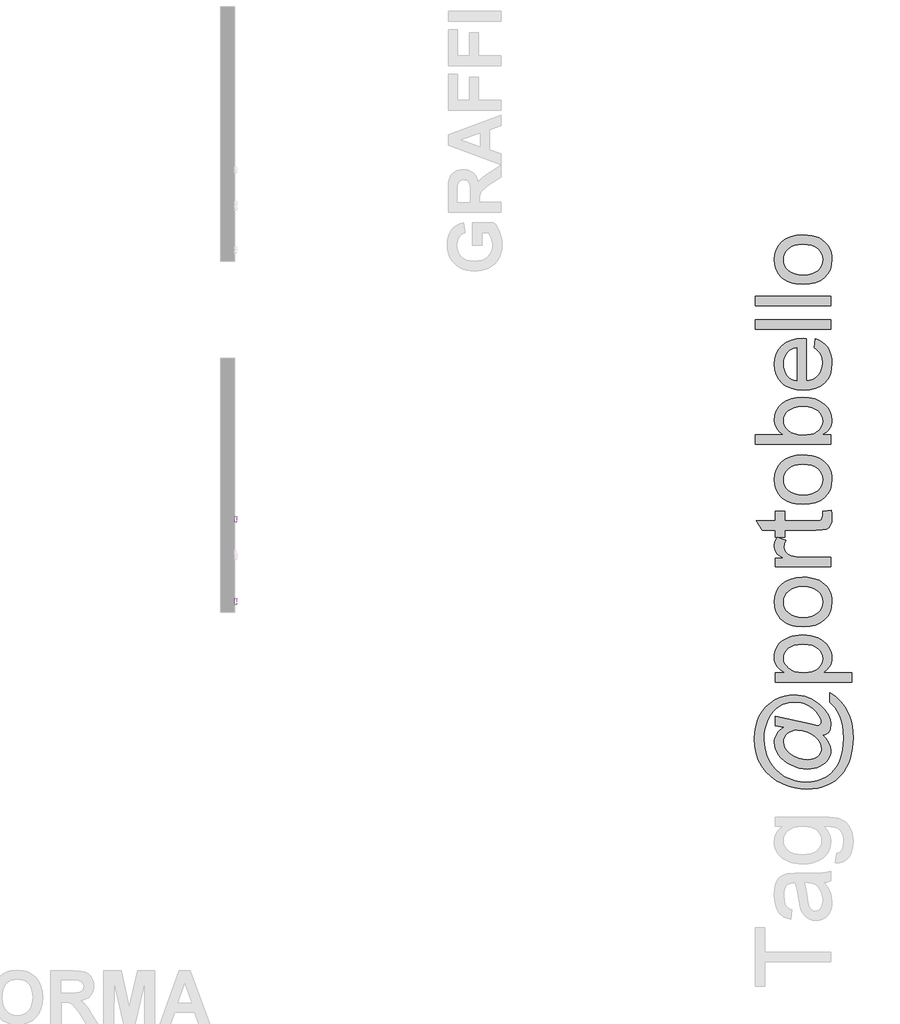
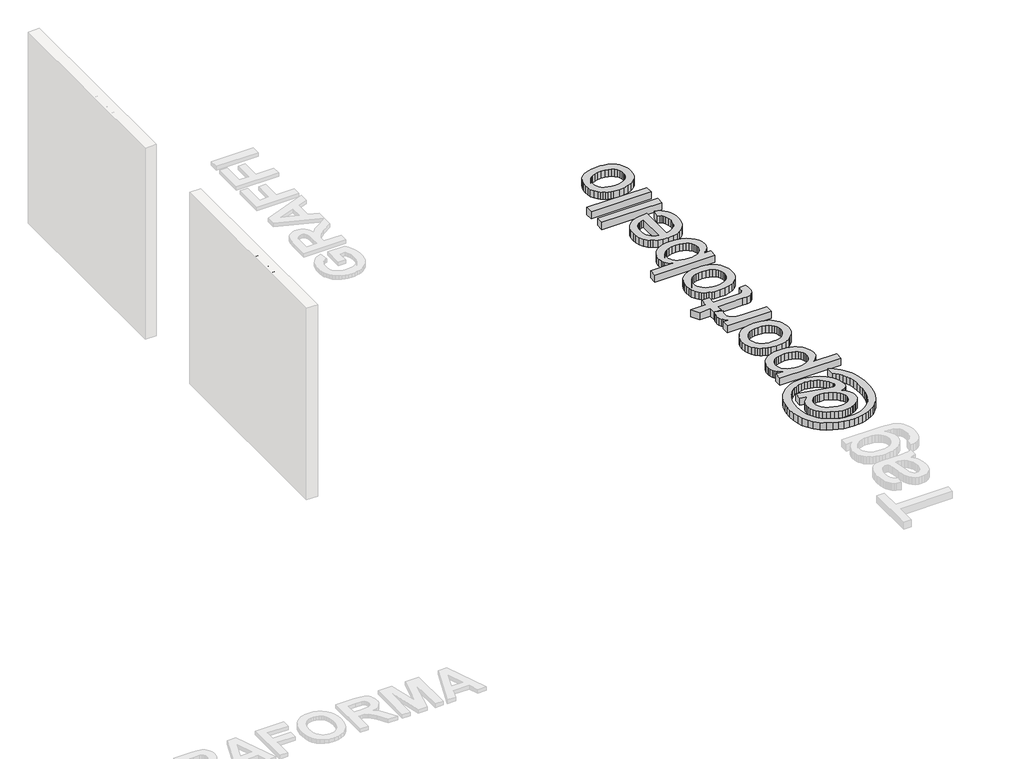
# One storey, part 5 of 17: 3 proxies.
"""IFC4 building model written with IfcOpenShell, lengths in millimetres."""

import ifcopenshell
import ifcopenshell.guid

model = None  # the IFC model being written
_history = None  # IfcOwnerHistory: only IFC2X3 demands one
_inside = {}  # id of a spatial element -> (the spatial element, [elements in it])
_under = {}  # id of a project, library or spatial element -> (it, [spatial elements below it])
_declared = {}  # id of a project -> (the project, [libraries it declares])
_typed = {}  # id of a type object -> (the type object, [elements of that type])
_made_of = {}  # id of a material, layer set ... -> (it, [elements and type objects made of it])


def new_model(schema):
    """Start an empty IFC model of exactly this schema.

    Asked for "IFC4X3", IfcOpenShell would pick the latest addendum, in which some entities
    have other attributes; the version numbers below select the first issue.
    IFC2X3 requires an IfcOwnerHistory on every rooted entity: one is made here for all.
    """
    global model, _history
    if schema == "IFC4X3":
        model = ifcopenshell.file(schema_version=(4, 3, 0, 0))
    else:
        model = ifcopenshell.file(schema=schema)
    _inside.clear()
    _under.clear()
    _declared.clear()
    _typed.clear()
    _made_of.clear()
    _history = None
    if model.schema == "IFC2X3":
        org = make("IfcOrganization", Name="unknown")
        user = make(
            "IfcPersonAndOrganization",
            ThePerson=make("IfcPerson", FamilyName="unknown"),
            TheOrganization=org,
        )
        app = make(
            "IfcApplication",
            ApplicationDeveloper=org,
            Version="unknown",
            ApplicationFullName="unknown",
            ApplicationIdentifier="unknown",
        )
        _history = make(
            "IfcOwnerHistory",
            OwningUser=user,
            OwningApplication=app,
            ChangeAction="ADDED",
            CreationDate=0,
        )
    return model


def make(cls, **values):
    """One entity of the class cls with the attributes given. An attribute that is None is left unset."""
    return model.create_entity(
        cls, **{name: value for name, value in values.items() if value is not None}
    )


def rooted(cls, **values):
    """An entity with a GlobalId (a new one), such as an element, a storey or a relation."""
    return make(cls, GlobalId=ifcopenshell.guid.new(), OwnerHistory=_history, **values)


def si_unit(unit_type, name, prefix=None):
    """IfcSIUnit, for example si_unit("LENGTHUNIT", "METRE", prefix="MILLI")."""
    return make("IfcSIUnit", UnitType=unit_type, Prefix=prefix, Name=name)


def assignment(units):
    """IfcUnitAssignment: the units of a project."""
    return None if units is None else make("IfcUnitAssignment", Units=units)


def point(xyz):
    """IfcCartesianPoint."""
    return None if xyz is None else make("IfcCartesianPoint", Coordinates=xyz)


def direction(xyz):
    """IfcDirection."""
    return None if xyz is None else make("IfcDirection", DirectionRatios=xyz)


def frame(location, z_axis=None, x_axis=None):
    """IfcAxis2Placement3D, a coordinate frame: its origin and axes. An axis left out is left unset."""
    return make(
        "IfcAxis2Placement3D",
        Location=point(location),
        Axis=direction(z_axis),
        RefDirection=direction(x_axis),
    )


def origin():
    """The frame at (0, 0, 0) with its axes left unset."""
    return frame((0.0, 0.0, 0.0))


def origin_with_axes():
    """The frame at (0, 0, 0) with the z axis (0, 0, 1) and the x axis (1, 0, 0) written out."""
    return frame((0.0, 0.0, 0.0), z_axis=(0.0, 0.0, 1.0), x_axis=(1.0, 0.0, 0.0))


def place(relative_to, where):
    """IfcLocalPlacement: puts the frame where relative to a parent placement (None: the world)."""
    return make(
        "IfcLocalPlacement", PlacementRelTo=relative_to, RelativePlacement=where
    )


def context(
    kind, dimensions, precision=None, world=None, true_north=None, identifier=None
):
    """IfcGeometricRepresentationContext, for example the 3D "Model" context."""
    return make(
        "IfcGeometricRepresentationContext",
        ContextIdentifier=identifier,
        ContextType=kind,
        CoordinateSpaceDimension=dimensions,
        Precision=precision,
        WorldCoordinateSystem=world,
        TrueNorth=true_north,
    )


def project(units=None, contexts=None):
    """IfcProject with its units and contexts."""
    return rooted(
        "IfcProject",
        Name="project",
        RepresentationContexts=contexts,
        UnitsInContext=assignment(units),
    )


def spatial(cls, under=None, at=None, **own):
    """A site, building, storey or space (cls), placed at a placement, below another one or the project."""
    s = rooted(cls, ObjectPlacement=at, **own)
    if under is not None:
        _under.setdefault(under.id(), (under, []))[1].append(s)
    return s


def polyline(points):
    """IfcPolyline through the points."""
    return make("IfcPolyline", Points=[point(p) for p in points])


def outline(outer, holes=None, kind="AREA"):
    """IfcArbitraryClosedProfileDef: a profile drawn as a closed curve; with holes, ...WithVoids."""
    if holes is None:
        return make("IfcArbitraryClosedProfileDef", ProfileType=kind, OuterCurve=outer)
    return make(
        "IfcArbitraryProfileDefWithVoids",
        ProfileType=kind,
        OuterCurve=outer,
        InnerCurves=holes,
    )


def extrude(swept, where, along, depth):
    """IfcExtrudedAreaSolid: the profile swept, set in the frame where, extruded along a direction by depth."""
    return make(
        "IfcExtrudedAreaSolid",
        SweptArea=swept,
        Position=where,
        ExtrudedDirection=direction(along),
        Depth=depth,
    )


def shape(context_of_items, identifier, shape_type, items):
    """IfcShapeRepresentation: the items that make up one representation, for example the "Body"."""
    return make(
        "IfcShapeRepresentation",
        ContextOfItems=context_of_items,
        RepresentationIdentifier=identifier,
        RepresentationType=shape_type,
        Items=items,
    )


def made_of(thing, what):
    """Note that an element or type object is made of a material, layer set ...; save() writes the relation."""
    if what is not None:
        _made_of.setdefault(what.id(), (what, []))[1].append(thing)
    return thing


def element(
    cls,
    number,
    at=None,
    inside=None,
    cuts=None,
    type_object=None,
    material=None,
    context=None,
    identifier="Body",
    shape_type=None,
    held_by="IfcProductDefinitionShape",
    body=None,
    shapes=None,
    **own,
):
    """One element of the class cls, such as IfcWall. Its Tag is "e" and its number.

    at: its placement. inside: the storey or other place that contains it. cuts: it is an
    opening in that element (IfcRelVoidsElement). A single representation is given by context,
    identifier, shape_type and body (its items); several are given by shapes. held_by: the class
    of the entity that holds the representations. save() writes the other relations.
    """
    e = rooted(cls, Tag="e%d" % number, ObjectPlacement=at, **own)
    if body is not None:
        shapes = [shape(context, identifier, shape_type, body)]
    if shapes is not None:
        e.Representation = make(held_by, Representations=shapes)
    if inside is not None:
        _inside.setdefault(inside.id(), (inside, []))[1].append(e)
    if cuts is not None:
        rooted(
            "IfcRelVoidsElement", RelatingBuildingElement=cuts, RelatedOpeningElement=e
        )
    if type_object is not None:
        _typed.setdefault(type_object.id(), (type_object, []))[1].append(e)
    return made_of(e, material)


def aggregate(whole, parts):
    """IfcRelAggregates: a whole, such as a stair, and the parts it consists of."""
    return rooted("IfcRelAggregates", RelatingObject=whole, RelatedObjects=parts)


def save(model, path):
    """Write the relations noted so far, then the file.

    IfcRelAggregates (storeys below a building ...), IfcRelContainedInSpatialStructure (elements
    in a storey), IfcRelDefinesByType, IfcRelAssociatesMaterial and IfcRelDeclares: one each for
    every whole, place, type object, material and project.
    """
    for whole, parts in _under.values():
        aggregate(whole, parts)
    for where, things in _inside.values():
        rooted(
            "IfcRelContainedInSpatialStructure",
            RelatedElements=things,
            RelatingStructure=where,
        )
    for kind, things in _typed.values():
        rooted("IfcRelDefinesByType", RelatedObjects=things, RelatingType=kind)
    for what, things in _made_of.values():
        rooted("IfcRelAssociatesMaterial", RelatedObjects=things, RelatingMaterial=what)
    for by, libraries in _declared.values():
        rooted("IfcRelDeclares", RelatingContext=by, RelatedDefinitions=libraries)
    model.write(path)


model = new_model("IFC4")

# Units and contexts
model_context = context("Model", 3, world=origin())
ifc_project = project(units=[si_unit("LENGTHUNIT", "METRE", prefix="MILLI")], contexts=[model_context])

# Site, building, storey
site = spatial("IfcSite", under=ifc_project)
building = spatial("IfcBuilding", under=site)
storey = spatial("IfcBuildingStorey", under=building, Name="PORTOBELLO - SHOWROOM", Elevation=0.0)

# Proxies
placement = place(None, origin())
element("IfcBuildingElementProxy", 1, Name="10mm Arial", ObjectType="10mm Arial", at=placement, inside=storey, context=model_context, shape_type="SweptSolid", body=[
    extrude(outline(polyline([(-7608.8255811, 2393.4745677), (-7608.8255811, 2417.0190154), (-7654.3448466, 2417.0190154), (-7654.3448466, 2429.5760541), (-7605.6863214, 2492.361248), (-7596.2685423, 2492.361248), (-7596.2685423, 2429.5760541), (-7583.7115035, 2429.5760541), (-7583.7115035, 2417.0190154), (-7596.2685423, 2417.0190154), (-7596.2685423, 2393.4745677), (-7608.8255811, 2393.4745677)]), holes=[polyline([(-7608.8255811, 2429.5760541), (-7608.8255811, 2468.3753419), (-7638.8938028, 2429.5760541), (-7608.8255811, 2429.5760541)])]), frame((-7622.2794626, 0.0, 0.0), z_axis=(1.0, 0.0, 0.0), x_axis=(0.0, 1.0, 0.0)), (0.0, 0.0, 1.0), 20.0),
    extrude(outline(polyline([(-7572.7240946, 2420.158275), (-7560.1670558, 2421.7279049), (-7553.8394855, 2408.7907214), (-7540.718361, 2404.4619766), (-7531.7175149, 2405.9672271), (-7524.9730116, 2410.4829786), (-7520.7607628, 2417.4880649), (-7519.3566798, 2426.4613199), (-7524.6173924, 2441.3728034), (-7531.2239399, 2445.4746877), (-7540.5221573, 2446.8419824), (-7551.5463544, 2444.6592159), (-7558.597426, 2438.9938332), (-7571.1544648, 2440.563463), (-7560.1670558, 2492.361248), (-7511.5085306, 2492.361248), (-7511.5085306, 2479.8042092), (-7550.0135128, 2479.8042092), (-7555.4091154, 2452.1394832), (-7546.438926, 2457.5841367), (-7537.0395411, 2459.3990212), (-7525.3041054, 2457.1488097), (-7515.5552325, 2450.3981751), (-7508.9885389, 2440.1097419), (-7506.7996411, 2427.2461348), (-7508.7678097, 2414.6890961), (-7514.6723158, 2403.9469418), (-7525.9785557, 2394.9154388), (-7540.7674119, 2391.9049378), (-7553.1006558, 2393.839384), (-7562.9261708, 2399.6427224), (-7569.661477, 2408.6405029), (-7572.7240946, 2420.158275)])), frame((-7622.2794626, 0.0, 0.0), z_axis=(1.0, 0.0, 0.0), x_axis=(0.0, 1.0, 0.0)), (0.0, 0.0, 1.0), 20.0),
    extrude(outline(polyline([(-7500.5211217, 2393.4745677), (-7473.6902615, 2430.5815982), (-7498.9514918, 2467.2471704), (-7483.8928555, 2467.2471704), (-7471.7036987, 2449.5643092), (-7465.9892651, 2441.2501761), (-7461.0351209, 2448.0682557), (-7447.1537069, 2467.2471704), (-7432.0460196, 2467.2471704), (-7458.5825742, 2430.5570728), (-7433.0270383, 2393.4745677), (-7448.1102001, 2393.4745677), (-7463.512193, 2415.792742), (-7466.3080961, 2419.8884949), (-7485.4134344, 2393.4745677), (-7500.5211217, 2393.4745677)])), frame((-7622.2794626, 0.0, 0.0), z_axis=(1.0, 0.0, 0.0), x_axis=(0.0, 1.0, 0.0)), (0.0, 0.0, 1.0), 20.0),
    extrude(outline(polyline([(-7378.0899937, 2393.4745677), (-7390.6470325, 2393.4745677), (-7390.6470325, 2471.7598562), (-7402.5418836, 2463.2863076), (-7415.76111, 2456.9464746), (-7415.76111, 2468.8168003), (-7397.3547475, 2480.5644987), (-7386.1833976, 2493.9308778), (-7378.0899937, 2493.9308778), (-7378.0899937, 2393.4745677)])), frame((-7622.2794626, 0.0, 0.0), z_axis=(1.0, 0.0, 0.0), x_axis=(0.0, 1.0, 0.0)), (0.0, 0.0, 1.0), 20.0),
    extrude(outline(polyline([(-7283.9122029, 2406.0316064), (-7283.9122029, 2393.4745677), (-7349.8366565, 2393.4745677), (-7348.4877558, 2402.1320573), (-7340.848073, 2415.4616482), (-7325.1149864, 2430.0175125), (-7303.4467369, 2450.9377353), (-7298.0388715, 2465.1625058), (-7303.1524313, 2476.6772122), (-7316.5065477, 2481.373839), (-7330.4247498, 2476.7875768), (-7335.7099878, 2464.1079107), (-7348.2670266, 2465.6775406), (-7345.2228031, 2477.8237778), (-7338.6407811, 2486.6958652), (-7328.864317, 2492.1221247), (-7316.2367676, 2493.9308778), (-7303.5172476, 2491.9197896), (-7293.7591777, 2485.8865249), (-7287.551169, 2476.873416), (-7285.4818328, 2465.9227952), (-7287.7136502, 2454.0156813), (-7295.1326038, 2441.7038972), (-7313.1220333, 2424.4992826), (-7327.567533, 2412.4204904), (-7333.2329157, 2406.0316064), (-7283.9122029, 2406.0316064)])), frame((-7622.2794626, 0.0, 0.0), z_axis=(1.0, 0.0, 0.0), x_axis=(0.0, 1.0, 0.0)), (0.0, 0.0, 1.0), 20.0),
    extrude(outline(polyline([(-7271.3551641, 2442.8933823), (-7267.6640815, 2471.7966444), (-7256.701198, 2488.4616988), (-7238.3929374, 2493.9308778), (-7223.7267085, 2490.6935163), (-7213.5976909, 2481.3615763), (-7207.711579, 2466.4991437), (-7205.4307106, 2442.8933823), (-7209.0850051, 2414.1127476), (-7220.0111004, 2397.410905), (-7228.24246, 2393.2814296), (-7238.3929374, 2391.9049378), (-7251.4404855, 2394.2961708), (-7261.3487739, 2401.4698697), (-7268.8535666, 2418.4598865), (-7271.3551641, 2442.8933823)]), holes=[polyline([(-7258.7981254, 2442.9179078), (-7257.3265974, 2423.1657104), (-7252.9120135, 2411.7337774), (-7246.3391885, 2406.2799268), (-7238.3929374, 2404.4619766), (-7230.4466863, 2406.2860581), (-7223.8738613, 2411.7583028), (-7219.4592774, 2423.1963672), (-7217.9877494, 2442.9179078), (-7219.4102264, 2462.2255812), (-7223.6776576, 2473.746419), (-7230.2382198, 2479.466984), (-7238.5400902, 2481.373839), (-7246.4005021, 2479.6938446), (-7252.7158097, 2474.6538613), (-7257.2775465, 2462.4156536), (-7258.7981254, 2442.9179078)])]), frame((-7622.2794626, 0.0, 0.0), z_axis=(1.0, 0.0, 0.0), x_axis=(0.0, 1.0, 0.0)), (0.0, 0.0, 1.0), 20.0),
])
element("IfcBuildingElementProxy", 2, Name="10mm Arial Narrow", ObjectType="10mm Arial Narrow", at=placement, inside=storey, context=model_context, shape_type="SweptSolid", body=[
    extrude(outline(polyline([(-6777.7471538, 2518.4745677), (-6777.7471538, 2619.1931714), (-6746.4502692, 2619.1931714), (-6730.1545677, 2617.3148507), (-6718.6815815, 2607.8344075), (-6714.3919031, 2590.8152987), (-6716.1782115, 2578.7394731), (-6721.5371367, 2569.1130794), (-6731.2809255, 2562.811821), (-6746.2218248, 2560.7114015), (-6768.0001922, 2560.7114015), (-6768.0001922, 2518.4745677), (-6777.7471538, 2518.4745677)]), holes=[polyline([(-6768.0001922, 2572.0828568), (-6745.0288373, 2572.0828568), (-6729.1646419, 2576.613671), (-6724.1388648, 2590.2822617), (-6726.6136792, 2600.4480381), (-6732.5913081, 2606.247988), (-6745.2572817, 2607.8217162), (-6768.0001922, 2607.8217162), (-6768.0001922, 2572.0828568)])]), frame((-7622.2794626, 0.0, 0.0), z_axis=(1.0, 0.0, 0.0), x_axis=(0.0, 1.0, 0.0)), (0.0, 0.0, 1.0), 20.0),
    extrude(outline(polyline([(-6706.2694351, 2555.0256739), (-6704.3149662, 2571.6164494), (-6698.4515596, 2583.5685342), (-6689.5929929, 2590.7930888), (-6678.6530437, 2593.2012737), (-6667.8400081, 2590.7930888), (-6658.9560587, 2583.5685342), (-6653.0165039, 2571.8068198), (-6651.0366524, 2555.7871552), (-6652.9816027, 2538.6252687), (-6658.8164538, 2526.4828135), (-6667.665502, 2519.2582589), (-6678.6530437, 2516.8500741), (-6689.5136719, 2519.2646046), (-6698.3881028, 2526.5081962), (-6704.299102, 2538.4666267), (-6706.2694351, 2555.0256739)]), holes=[polyline([(-6696.5224734, 2555.0510566), (-6695.2184365, 2542.4993052), (-6691.306326, 2533.6280471), (-6685.4651292, 2528.3547886), (-6678.3738339, 2526.5970357), (-6671.6537607, 2528.3706528), (-6665.9616874, 2533.6915039), (-6662.0781324, 2542.5786262), (-6660.783614, 2555.0510566), (-6662.0876509, 2567.5647339), (-6665.9997615, 2576.4233006), (-6671.8409582, 2581.6965592), (-6678.9322535, 2583.454312), (-6685.6999193, 2581.6870407), (-6691.3824741, 2576.3852265), (-6695.2374736, 2567.5171413), (-6696.5224734, 2555.0510566)])]), frame((-7622.2794626, 0.0, 0.0), z_axis=(1.0, 0.0, 0.0), x_axis=(0.0, 1.0, 0.0)), (0.0, 0.0, 1.0), 20.0),
    extrude(outline(polyline([(-6579.5589336, 2526.5970357), (-6577.93444, 2516.8500741), (-6585.2954266, 2516.8500741), (-6593.5701909, 2518.9695306), (-6597.8852521, 2524.7694804), (-6599.0528569, 2539.4153056), (-6599.0528569, 2581.8298184), (-6607.1753249, 2581.8298184), (-6607.1753249, 2585.0788056), (-6608.7998185, 2580.2053248), (-6616.3638669, 2581.8298184), (-6622.4430266, 2579.5073002), (-6626.3138902, 2573.0220171), (-6628.2937418, 2557.6147106), (-6628.2937418, 2518.4745677), (-6638.0407035, 2518.4745677), (-6638.0407035, 2591.5767801), (-6628.2937418, 2591.5767801), (-6628.2937418, 2581.8805838), (-6622.0495945, 2590.967595), (-6615.6531509, 2593.2012737), (-6607.1753249, 2591.5767801), (-6599.0528569, 2591.5767801), (-6599.0528569, 2607.8217162), (-6589.3058952, 2615.9441842), (-6589.3058952, 2591.5767801), (-6579.5589336, 2591.5767801), (-6579.5589336, 2581.8298184), (-6589.3058952, 2581.8298184), (-6589.3058952, 2537.1816269), (-6588.442883, 2529.1860724), (-6583.8232293, 2526.5970357), (-6579.5589336, 2526.5970357)])), frame((-7622.2794626, 0.0, 0.0), z_axis=(1.0, 0.0, 0.0), x_axis=(0.0, 1.0, 0.0)), (0.0, 0.0, 1.0), 20.0),
    extrude(outline(polyline([(-6573.0609591, 2555.0256739), (-6571.1064903, 2571.6164494), (-6565.2430836, 2583.5685342), (-6556.3845169, 2590.7930888), (-6545.4445678, 2593.2012737), (-6534.6315322, 2590.7930888), (-6525.7475828, 2583.5685342), (-6519.808028, 2571.8068198), (-6517.8281764, 2555.7871552), (-6519.7731268, 2538.6252687), (-6525.6079778, 2526.4828135), (-6534.457026, 2519.2582589), (-6545.4445678, 2516.8500741), (-6556.3051959, 2519.2646046), (-6565.1796269, 2526.5081962), (-6571.0906261, 2538.4666267), (-6573.0609591, 2555.0256739)]), holes=[polyline([(-6563.3139975, 2555.0510566), (-6562.0099606, 2542.4993052), (-6558.09785, 2533.6280471), (-6552.2566533, 2528.3547886), (-6545.1653579, 2526.5970357), (-6538.4452848, 2528.3706528), (-6532.7532115, 2533.6915039), (-6528.8696564, 2542.5786262), (-6527.5751381, 2555.0510566), (-6528.8791749, 2567.5647339), (-6532.7912855, 2576.4233006), (-6538.6324823, 2581.6965592), (-6545.7237776, 2583.454312), (-6552.4914434, 2581.6870407), (-6558.1739982, 2576.3852265), (-6562.0289976, 2567.5171413), (-6563.3139975, 2555.0510566)])]), frame((-7622.2794626, 0.0, 0.0), z_axis=(1.0, 0.0, 0.0), x_axis=(0.0, 1.0, 0.0)), (0.0, 0.0, 1.0), 20.0),
    extrude(outline(polyline([(-6495.0852659, 2518.4745677), (-6504.8322276, 2518.4745677), (-6504.8322276, 2619.1931714), (-6495.0852659, 2619.1931714), (-6495.0852659, 2583.7842873), (-6487.6862052, 2590.8660641), (-6478.4849718, 2593.2012737), (-6465.6032452, 2589.0004347), (-6456.3258637, 2576.2710043), (-6452.8484321, 2555.5840935), (-6454.7806911, 2539.1297501), (-6460.5774681, 2526.927011), (-6468.9505904, 2519.3693083), (-6478.6118854, 2516.8500741), (-6487.9527236, 2519.4644935), (-6495.0852659, 2527.2316035), (-6495.0852659, 2518.4745677)]), holes=[polyline([(-6495.0852659, 2555.5840935), (-6493.0038835, 2538.3365403), (-6487.1150941, 2529.6048872), (-6478.6626508, 2526.5970357), (-6472.7199232, 2528.3865169), (-6467.4815659, 2533.7549607), (-6462.5953937, 2555.1779701), (-6467.3038869, 2576.613671), (-6472.5485899, 2581.7441518), (-6478.8657125, 2583.454312), (-6484.8433413, 2581.6648308), (-6490.1356369, 2576.2963871), (-6495.0852659, 2555.5840935)])]), frame((-7622.2794626, 0.0, 0.0), z_axis=(1.0, 0.0, 0.0), x_axis=(0.0, 1.0, 0.0)), (0.0, 0.0, 1.0), 20.0),
    extrude(outline(polyline([(-6400.8646366, 2541.2174782), (-6391.1176749, 2539.5929846), (-6394.8172053, 2529.706418), (-6400.6361922, 2522.5865671), (-6408.3398455, 2518.2841973), (-6417.6933751, 2516.8500741), (-6429.2869291, 2519.2646046), (-6438.4310513, 2526.5081962), (-6444.370606, 2538.3143304), (-6446.3504576, 2554.4164888), (-6444.3610875, 2571.0834124), (-6438.3929772, 2583.2639417), (-6429.3789414, 2590.7169407), (-6418.2517947, 2593.2012737), (-6407.5688456, 2590.8026073), (-6398.8213282, 2583.6066083), (-6392.9864771, 2571.8671037), (-6391.0415268, 2555.8379207), (-6391.1176749, 2552.5889335), (-6436.603496, 2552.5889335), (-6430.6004844, 2533.1457756), (-6424.6704482, 2528.2342207), (-6417.5664615, 2526.5970357), (-6407.3879937, 2530.2521463), (-6400.8646366, 2541.2174782)]), holes=[polyline([(-6435.9435454, 2562.3358951), (-6400.8646366, 2562.3358951), (-6405.1289323, 2576.6009796), (-6410.9542649, 2581.7409789), (-6418.1756466, 2583.454312), (-6430.3847314, 2577.7432017), (-6435.9435454, 2562.3358951)])]), frame((-7622.2794626, 0.0, 0.0), z_axis=(1.0, 0.0, 0.0), x_axis=(0.0, 1.0, 0.0)), (0.0, 0.0, 1.0), 20.0),
    extrude(outline(polyline([(-7602.2794626, -6368.3747644), (-7602.2794626, -6378.1217261), (-7622.2794626, -6378.1217261), (-7622.2794626, -6368.3747644), (-7602.2794626, -6368.3747644)])), frame((0.0, 0.0, 2518.4745677), z_axis=(0.0, 0.0, 1.0), x_axis=(1.0, 0.0, 0.0)), (0.0, 0.0, 1.0), 100.7186038),
    extrude(outline(polyline([(-7602.2794626, -6342.3828667), (-7602.2794626, -6352.1298283), (-7622.2794626, -6352.1298283), (-7622.2794626, -6342.3828667), (-7602.2794626, -6342.3828667)])), frame((0.0, 0.0, 2518.4745677), z_axis=(0.0, 0.0, 1.0), x_axis=(1.0, 0.0, 0.0)), (0.0, 0.0, 1.0), 100.7186038),
    extrude(outline(polyline([(-6331.0114114, 2555.0256739), (-6329.0569425, 2571.6164494), (-6323.1935359, 2583.5685342), (-6314.3349692, 2590.7930888), (-6303.39502, 2593.2012737), (-6292.5819845, 2590.7930888), (-6283.698035, 2583.5685342), (-6277.7584803, 2571.8068198), (-6275.7786287, 2555.7871552), (-6277.723579, 2538.6252687), (-6283.5584301, 2526.4828135), (-6292.4074783, 2519.2582589), (-6303.39502, 2516.8500741), (-6314.2556482, 2519.2646046), (-6323.1300791, 2526.5081962), (-6329.0410783, 2538.4666267), (-6331.0114114, 2555.0256739)]), holes=[polyline([(-6321.2644497, 2555.0510566), (-6319.9604129, 2542.4993052), (-6316.0483023, 2533.6280471), (-6310.2071056, 2528.3547886), (-6303.1158102, 2526.5970357), (-6296.395737, 2528.3706528), (-6290.7036637, 2533.6915039), (-6286.8201087, 2542.5786262), (-6285.5255903, 2555.0510566), (-6286.8296272, 2567.5647339), (-6290.7417378, 2576.4233006), (-6296.5829345, 2581.6965592), (-6303.6742299, 2583.454312), (-6310.4418956, 2581.6870407), (-6316.1244504, 2576.3852265), (-6319.9794499, 2567.5171413), (-6321.2644497, 2555.0510566)])]), frame((-7622.2794626, 0.0, 0.0), z_axis=(1.0, 0.0, 0.0), x_axis=(0.0, 1.0, 0.0)), (0.0, 0.0, 1.0), 20.0),
])
element("IfcBuildingElementProxy", 3, Name="80mm Arial", ObjectType="80mm Arial", at=placement, inside=storey, context=model_context, shape_type="SweptSolid", body=[
    extrude(outline(polyline([(-1382.9386387, -9035.7052888), (-1345.6380613, -9072.9570753), (-1316.4855499, -9114.4536627), (-1297.6766911, -9158.1458368), (-1291.4070715, -9201.9843833), (-1293.2001339, -9225.9162776), (-1298.5793211, -9249.5066362), (-1307.5446332, -9272.7554591), (-1320.0960702, -9295.6627463), (-1336.3678067, -9317.3319667), (-1356.4940175, -9336.8665889), (-1380.4747026, -9354.2666129), (-1408.3098621, -9369.5320389), (-1438.8041209, -9381.9553999), (-1470.7621041, -9390.8292293), (-1504.1838118, -9396.1535268), (-1539.0692439, -9397.9282927), (-1582.9077904, -9395.1777106), (-1626.7951276, -9386.9259641), (-1670.7312557, -9373.1730534), (-1714.7161747, -9353.9189784), (-1755.9810057, -9330.5725738), (-1791.7568701, -9304.5426745), (-1822.043768, -9275.8292804), (-1846.8416993, -9244.4323915), (-1866.1384663, -9211.9316105), (-1879.9218712, -9179.9065399), (-1888.1919142, -9148.3571797), (-1890.9485952, -9117.28353), (-1889.3811903, -9094.120091), (-1884.6789756, -9071.4689555), (-1865.8701168, -9027.7035953), (-1851.6902864, -9007.0772786), (-1834.2292738, -8987.9390818), (-1789.4637019, -8954.1270476), (-1878.4581468, -8935.7817015), (-1878.4581468, -8835.8581142), (-1511.9415512, -8918.6073349), (-1427.4358612, -8935.7817015), (-1413.6524562, -8932.9762297), (-1401.9670562, -8924.5598142), (-1393.9897581, -8912.1913429), (-1391.3306588, -8897.5297032), (-1393.3066867, -8881.8556542), (-1399.2347706, -8863.9128323), (-1422.9471063, -8821.22087), (-1445.3115957, -8791.6231423), (-1471.2256169, -8765.2822016), (-1500.6891697, -8742.1980477), (-1533.7022543, -8722.3706806), (-1568.7645531, -8706.4465786), (-1604.3757486, -8695.0722201), (-1640.5358407, -8688.247605), (-1677.2448294, -8685.9727332), (-1719.6684423, -8688.9001821), (-1760.6771216, -8697.6825286), (-1800.2708672, -8712.3197729), (-1838.4496792, -8732.8119148), (-1874.048677, -8759.1162624), (-1905.9029797, -8791.1901239), (-1934.0125875, -8829.0334991), (-1958.3775003, -8872.646388), (-1978.058495, -8920.3577054), (-1992.1163483, -8970.4963657), (-2000.5510603, -9023.0623691), (-2003.3626309, -9078.0557154), (-1999.7948026, -9140.7885047), (-1989.0913178, -9200.7646129), (-1971.2521764, -9257.9840401), (-1946.2773784, -9312.4467864), (-1914.6426343, -9362.5427548), (-1876.8236545, -9406.6618484), (-1832.8204391, -9444.8040674), (-1782.6329879, -9476.9694116), (-1728.401998, -9502.499205), (-1672.2681664, -9520.7347718), (-1614.231493, -9531.6761119), (-1554.2919779, -9535.3232252), (-1492.6020923, -9531.712705), (-1435.3643685, -9520.8811443), (-1382.5788065, -9502.828543), (-1334.2454063, -9477.5549013), (-1291.1509197, -9445.4444468), (-1254.0820987, -9406.8814071), (-1223.0389432, -9361.8657822), (-1198.0214533, -9310.3975722), (-1178.7673782, -9254.2332463), (-1165.0144675, -9195.1292739), (-1156.7627211, -9133.0856549), (-1154.0121389, -9068.1023893), (-1156.7444245, -8999.8562381), (-1164.9412813, -8937.3917983), (-1178.6027093, -8880.7090701), (-1197.7287084, -8829.8080532), (-1220.7579726, -8784.8107249), (-1246.129196, -8745.8390622), (-1273.8423784, -8712.8930649), (-1303.8975199, -8685.9727332), (-1303.8975199, -8586.049146), (-1274.5864383, -8602.2781905), (-1245.0070073, -8623.447305), (-1215.1592267, -8649.5564894), (-1185.0430967, -8680.6057437), (-1156.3723946, -8715.7168333), (-1130.8608976, -8754.0115235), (-1108.5086059, -8795.4898144), (-1089.3155194, -8840.1517058), (-1073.903721, -8888.7717521), (-1062.8952936, -8942.1245073), (-1056.2902371, -9000.2099715), (-1054.0885516, -9063.0281447), (-1056.0340854, -9121.8759653), (-1061.8706865, -9178.3940246), (-1071.5983551, -9232.5823225), (-1085.217091, -9284.4408591), (-1102.7329933, -9333.2621675), (-1124.1521607, -9378.3387808), (-1149.4745932, -9419.6706992), (-1178.7002909, -9457.2579227), (-1211.0668972, -9490.7650143), (-1245.8120557, -9519.8565372), (-1282.9357664, -9544.5324914), (-1322.4380292, -9564.792877), (-1374.985736, -9584.6873314), (-1429.582657, -9598.897656), (-1486.2287922, -9607.4238508), (-1544.9241416, -9610.2659157), (-1610.6819613, -9606.8749541), (-1674.8540795, -9596.7020694), (-1737.4404963, -9579.7472615), (-1798.4412117, -9556.0105304), (-1867.9864183, -9519.5515946), (-1928.8834532, -9476.1399677), (-1981.1323163, -9425.7756499), (-2024.7330075, -9368.458641), (-2059.1000372, -9304.4328952), (-2083.6479155, -9233.9423665), (-2098.3766426, -9156.9870549), (-2103.2862182, -9073.5669605), (-2099.8464658, -9008.1384788), (-2089.5272086, -8946.1253541), (-2072.3284467, -8887.5275863), (-2048.2501799, -8832.3451756), (-2017.3533969, -8781.6881128), (-1979.6990861, -8736.6663891), (-1935.2872475, -8697.2800044), (-1884.1178812, -8663.5289588), (-1836.2418949, -8640.560683), (-1786.292299, -8624.1547718), (-1734.2690934, -8614.311225), (-1680.1722783, -8611.0300428), (-1641.4415202, -8612.7316224), (-1603.8024565, -8617.8363613), (-1567.2550873, -8626.3442596), (-1531.7994126, -8638.2553171), (-1497.4354323, -8653.5695338), (-1464.1631465, -8672.2869099), (-1431.9825552, -8694.4074452), (-1400.8936583, -8719.9311399), (-1352.9932766, -8769.7465611), (-1318.7787182, -8821.8063597), (-1306.8036227, -8848.6779006), (-1298.2499831, -8876.1105358), (-1293.1177994, -8904.1042654), (-1291.4070715, -8932.6590894), (-1294.2857295, -8965.9832154), (-1302.9217036, -8992.1838826), (-1316.8758764, -9011.8465807), (-1335.7091307, -9025.5567994), (-1354.4448033, -9031.6068604), (-1382.9386387, -9035.7052888)]), holes=[polyline([(-1537.5079378, -9298.0047054), (-1504.793697, -9295.8152176), (-1475.9339304, -9289.2467543), (-1450.9286382, -9278.2993154), (-1429.7778203, -9262.9729009), (-1412.9571871, -9244.8166192), (-1400.9424491, -9225.3795786), (-1393.7336064, -9204.6617792), (-1391.3306588, -9182.6632209), (-1395.5754596, -9151.6078677), (-1408.3098621, -9118.9424176), (-1429.3874938, -9086.2281768), (-1458.6619822, -9055.0264512), (-1496.523654, -9027.3376642), (-1543.3628355, -9005.1622391), (-1594.7883536, -8990.5981811), (-1646.4090349, -8985.7434951), (-1678.8366297, -8988.0183668), (-1707.421948, -8994.842982), (-1732.1649896, -9006.2173405), (-1753.0657546, -9022.1414425), (-1769.6729279, -9041.334529), (-1781.5351946, -9062.5158411), (-1788.6525546, -9085.685379), (-1791.0250079, -9110.8431425), (-1786.9021841, -9144.3624318), (-1774.5337128, -9175.8325069), (-1753.0657546, -9205.8144622), (-1721.6444703, -9234.869392), (-1681.3188624, -9260.6309418), (-1633.1379335, -9280.7327572), (-1583.1761398, -9293.6867184), (-1537.5079378, -9298.0047054)])]), origin_with_axes(), (0.0, 0.0, 1.0), 100.0),
    extrude(outline(polyline([(-1066.5790001, -8473.6351103), (-1878.4581468, -8473.6351103), (-1878.4581468, -8373.711523), (-1780.4861921, -8373.711523), (-1828.8134935, -8341.1192591), (-1847.799219, -8323.3594028), (-1863.3329944, -8304.6237302), (-1875.4148198, -8284.3755423), (-1884.044695, -8262.0781403), (-1889.2226202, -8237.731524), (-1890.9485952, -8211.3356936), (-1888.5334499, -8176.4868546), (-1881.288014, -8143.7604161), (-1869.2122875, -8113.1563779), (-1852.3062705, -8084.6747402), (-1831.0090801, -8058.9375857), (-1805.7598338, -8036.5669975), (-1776.5585315, -8017.5629754), (-1743.4051734, -8001.9255195), (-1707.4341457, -7989.7156182), (-1669.7798349, -7980.9942602), (-1630.442241, -7975.7614454), (-1589.421364, -7974.0171738), (-1545.564521, -7975.9871029), (-1503.9642531, -7981.8968903), (-1464.6205604, -7991.7465359), (-1427.5334428, -8005.5360397), (-1393.6726178, -8023.0763374), (-1364.0078029, -8044.1783645), (-1338.5389979, -8068.842121), (-1317.2662029, -8097.067607), (-1300.4882617, -8127.470383), (-1288.504018, -8158.6660098), (-1281.3134718, -8190.6544873), (-1278.9166231, -8223.4358155), (-1280.5206211, -8247.0200753), (-1285.3326151, -8269.372367), (-1293.3526052, -8290.4926906), (-1304.5805913, -8310.3810462), (-1333.6355211, -8345.486037), (-1369.472374, -8373.711523), (-1066.5790001, -8373.711523), (-1066.5790001, -8473.6351103)]), holes=[polyline([(-1580.248691, -8373.711523), (-1532.0921575, -8371.0097316), (-1490.6687563, -8362.9043576), (-1455.9784875, -8349.395401), (-1428.021351, -8330.4828617), (-1406.5046019, -8307.715848), (-1391.1354955, -8282.6434684), (-1381.9140316, -8255.2657229), (-1378.8402103, -8225.5826113), (-1382.023811, -8195.4725802), (-1391.5746128, -8167.5947288), (-1407.4926159, -8141.9490571), (-1429.7778203, -8118.5355652), (-1458.7473662, -8099.0253384), (-1494.7183939, -8085.0894621), (-1537.6909034, -8076.7279363), (-1587.6648947, -8073.9407611), (-1635.4067063, -8076.660849), (-1676.7569213, -8084.8211126), (-1711.7155396, -8098.4215521), (-1740.2825613, -8117.4621673), (-1762.4823817, -8140.2840706), (-1778.3393963, -8165.2283743), (-1787.853605, -8192.2950784), (-1791.0250079, -8221.4841829), (-1787.6523429, -8250.5818047), (-1777.5343478, -8277.9595503), (-1760.6710227, -8303.6174196), (-1737.0623675, -8327.5554128), (-1707.0255226, -8347.748711), (-1670.8776282, -8362.1724954), (-1628.6186843, -8370.8267661), (-1580.248691, -8373.711523)])]), origin_with_axes(), (0.0, 0.0, 1.0), 100.0),
    extrude(outline(polyline([(-1584.9326091, -7886.5840349), (-1660.9608952, -7881.1804522), (-1695.0321306, -7874.4259739), (-1726.4747609, -7864.9697043), (-1755.288786, -7852.8116433), (-1781.4742061, -7837.9517909), (-1805.031021, -7820.3901473), (-1825.9592308, -7800.1267123), (-1854.3920778, -7762.0454819), (-1874.7012541, -7720.0121955), (-1886.88676, -7674.0268532), (-1890.9485952, -7624.089455), (-1886.0024264, -7568.9619339), (-1871.1639201, -7519.1160185), (-1846.4330762, -7474.5517086), (-1811.8098947, -7435.2690044), (-1768.4653553, -7403.2073407), (-1717.5704373, -7380.3061523), (-1659.1251408, -7366.5654393), (-1593.1294659, -7361.9852016), (-1539.6425359, -7364.0100204), (-1492.1812715, -7370.0844768), (-1450.7456726, -7380.2085707), (-1415.3357393, -7394.3823022), (-1384.7499977, -7412.4288046), (-1357.7869741, -7434.1712111), (-1334.4466684, -7459.6095218), (-1314.7290806, -7488.7437367), (-1299.0611304, -7520.4394693), (-1287.8697374, -7553.5623332), (-1281.1549017, -7588.1123285), (-1278.9166231, -7624.089455), (-1283.8444953, -7680.0220245), (-1298.628112, -7730.3314527), (-1323.2674731, -7775.0177396), (-1357.7625787, -7814.0808851), (-1401.5279389, -7845.8010132), (-1453.9780641, -7868.4582475), (-1515.1129542, -7882.052588), (-1584.9326091, -7886.5840349)]), holes=[polyline([(-1585.1277724, -7786.6604476), (-1536.6601974, -7783.7695919), (-1494.6939984, -7775.0970247), (-1459.2291754, -7760.642746), (-1430.2657284, -7740.4067558), (-1407.7670643, -7715.7917901), (-1391.6965899, -7688.2005847), (-1382.0543052, -7657.6331397), (-1378.8402103, -7624.089455), (-1382.0726018, -7590.7165382), (-1391.7697761, -7560.2710702), (-1407.9317333, -7532.753051), (-1430.5584733, -7508.1624807), (-1459.8085664, -7487.9264905), (-1495.8405826, -7473.4722119), (-1538.654522, -7464.7996446), (-1588.2503845, -7461.9087889), (-1635.1810488, -7464.8179412), (-1676.0494545, -7473.5453981), (-1710.8556015, -7488.0911595), (-1739.5994899, -7508.4552256), (-1762.098154, -7533.1372787), (-1778.1686284, -7560.6370013), (-1787.8109131, -7590.9543934), (-1791.0250079, -7624.089455), (-1787.8231108, -7657.6331397), (-1778.2174192, -7688.2005847), (-1762.2079333, -7715.7917901), (-1739.7946531, -7740.4067558), (-1710.91659, -7760.642746), (-1675.5127555, -7775.0970247), (-1633.5831497, -7783.7695919), (-1585.1277724, -7786.6604476)])]), origin_with_axes(), (0.0, 0.0, 1.0), 100.0),
    extrude(outline(polyline([(-1291.4070715, -7249.5711659), (-1878.4581468, -7249.5711659), (-1878.4581468, -7162.138027), (-1791.6104977, -7162.138027), (-1841.9626179, -7129.8385081), (-1859.3809385, -7114.6401695), (-1871.6274328, -7100.0761115), (-1886.1183046, -7070.2161333), (-1890.9485952, -7037.6238694), (-1889.0213581, -7012.8381359), (-1883.2396466, -6987.857239), (-1873.6034608, -6962.681179), (-1860.1128007, -6937.3099556), (-1770.532866, -6970.6828725), (-1785.9019725, -7005.8122586), (-1791.0250079, -7040.9416448), (-1786.0971357, -7070.7772276), (-1771.313519, -7097.4414075), (-1747.7963466, -7118.982552), (-1716.6678072, -7133.4490283), (-1660.8511159, -7145.5979411), (-1599.9601799, -7149.6475786), (-1291.4070715, -7149.6475786), (-1291.4070715, -7249.5711659)])), origin_with_axes(), (0.0, 0.0, 1.0), 100.0),
    extrude(outline(polyline([(-1374.741782, -6662.5200906), (-1288.4796226, -6650.0296422), (-1281.3073729, -6689.5989924), (-1278.9166231, -6724.7771694), (-1283.0638423, -6772.7385396), (-1295.5054999, -6808.5022064), (-1314.6802898, -6833.7758481), (-1339.026906, -6850.2671433), (-1380.8406337, -6859.3422347), (-1452.416758, -6862.3672652), (-1778.5345595, -6862.3672652), (-1778.5345595, -6937.3099556), (-1878.4581468, -6937.3099556), (-1878.4581468, -6862.3672652), (-2021.1224873, -6862.3672652), (-2079.8666274, -6762.4436779), (-1878.4581468, -6762.4436779), (-1878.4581468, -6662.5200906), (-1778.5345595, -6662.5200906), (-1778.5345595, -6762.4436779), (-1455.3442069, -6762.4436779), (-1422.4591982, -6761.1263259), (-1403.8211072, -6757.1742699), (-1393.50185, -6750.2703697), (-1385.5733427, -6740.097485), (-1380.5234934, -6725.6797994), (-1378.8402103, -6706.0414968), (-1374.741782, -6662.5200906)])), origin_with_axes(), (0.0, 0.0, 1.0), 100.0),
    extrude(outline(polyline([(-1584.9326091, -6587.5774001), (-1660.9608952, -6582.1738174), (-1695.0321306, -6575.4193391), (-1726.4747609, -6565.9630695), (-1755.288786, -6553.8050085), (-1781.4742061, -6538.9451561), (-1805.031021, -6521.3835125), (-1825.9592308, -6501.1200775), (-1854.3920778, -6463.0388471), (-1874.7012541, -6421.0055607), (-1886.88676, -6375.0202184), (-1890.9485952, -6325.0828202), (-1886.0024264, -6269.9552991), (-1871.1639201, -6220.1093836), (-1846.4330762, -6175.5450738), (-1811.8098947, -6136.2623696), (-1768.4653553, -6104.2007059), (-1717.5704373, -6081.2995175), (-1659.1251408, -6067.5588045), (-1593.1294659, -6062.9785668), (-1539.6425359, -6065.0033856), (-1492.1812715, -6071.077842), (-1450.7456726, -6081.2019359), (-1415.3357393, -6095.3756674), (-1384.7499977, -6113.4221697), (-1357.7869741, -6135.1645763), (-1334.4466684, -6160.602887), (-1314.7290806, -6189.7371019), (-1299.0611304, -6221.4328345), (-1287.8697374, -6254.5556984), (-1281.1549017, -6289.1056936), (-1278.9166231, -6325.0828202), (-1283.8444953, -6381.0153897), (-1298.628112, -6431.3248179), (-1323.2674731, -6476.0111048), (-1357.7625787, -6515.0742503), (-1401.5279389, -6546.7943784), (-1453.9780641, -6569.4516127), (-1515.1129542, -6583.0459532), (-1584.9326091, -6587.5774001)]), holes=[polyline([(-1585.1277724, -6487.6538128), (-1536.6601974, -6484.7629571), (-1494.6939984, -6476.0903899), (-1459.2291754, -6461.6361112), (-1430.2657284, -6441.400121), (-1407.7670643, -6416.7851553), (-1391.6965899, -6389.1939499), (-1382.0543052, -6358.6265049), (-1378.8402103, -6325.0828202), (-1382.0726018, -6291.7099034), (-1391.7697761, -6261.2644353), (-1407.9317333, -6233.7464162), (-1430.5584733, -6209.1558459), (-1459.8085664, -6188.9198557), (-1495.8405826, -6174.465577), (-1538.654522, -6165.7930098), (-1588.2503845, -6162.9021541), (-1635.1810488, -6165.8113064), (-1676.0494545, -6174.5387633), (-1710.8556015, -6189.0845247), (-1739.5994899, -6209.4485908), (-1762.098154, -6234.1306439), (-1778.1686284, -6261.6303665), (-1787.8109131, -6291.9477586), (-1791.0250079, -6325.0828202), (-1787.8231108, -6358.6265049), (-1778.2174192, -6389.1939499), (-1762.2079333, -6416.7851553), (-1739.7946531, -6441.400121), (-1710.91659, -6461.6361112), (-1675.5127555, -6476.0903899), (-1633.5831497, -6484.7629571), (-1585.1277724, -6487.6538128)])]), origin_with_axes(), (0.0, 0.0, 1.0), 100.0),
    extrude(outline(polyline([(-1291.4070715, -5850.6409438), (-1291.4070715, -5950.5645311), (-2090.7957698, -5950.5645311), (-2090.7957698, -5850.6409438), (-1794.3427833, -5850.6409438), (-1836.607826, -5817.7803305), (-1866.7971422, -5780.6749164), (-1877.3634029, -5760.530409), (-1884.910732, -5739.3247014), (-1890.9485952, -5693.7296856), (-1885.5084195, -5642.2553768), (-1869.1878921, -5593.6109351), (-1843.0116204, -5550.5774371), (-1808.0042112, -5515.935959), (-1764.5072005, -5488.783871), (-1712.8621237, -5468.2185428), (-1655.2157769, -5455.2645817), (-1593.7149557, -5450.9465946), (-1522.7487166, -5455.417053), (-1460.3208699, -5468.828428), (-1406.4314157, -5491.1807197), (-1361.080354, -5522.4739281), (-1325.1337217, -5560.0367561), (-1299.4575558, -5601.1979067), (-1284.0518562, -5645.9573798), (-1278.9166231, -5694.3151754), (-1280.5724613, -5718.5306663), (-1285.5399761, -5741.4105087), (-1293.8191673, -5762.9547026), (-1305.4100351, -5783.1632479), (-1320.3125794, -5802.0361447), (-1338.5268002, -5819.5733929), (-1384.8902713, -5850.6409438), (-1291.4070715, -5850.6409438)]), holes=[polyline([(-1589.0310375, -5850.6409438), (-1543.9971161, -5848.9332653), (-1505.696327, -5843.8102298), (-1474.1286703, -5835.2718374), (-1449.2941459, -5823.3180879), (-1418.4705491, -5799.1056464), (-1396.4536942, -5770.9655444), (-1383.2435813, -5738.8977818), (-1378.8402103, -5702.9023587), (-1382.0847995, -5673.0179851), (-1391.8185669, -5645.2316164), (-1408.0415126, -5619.5432528), (-1430.7536366, -5595.9528942), (-1459.8939503, -5576.2292076), (-1495.4014653, -5562.14086), (-1537.2761815, -5553.6878515), (-1585.5180989, -5550.8701819), (-1634.6748441, -5553.5719733), (-1676.9520845, -5561.6773473), (-1712.3498202, -5575.1863039), (-1740.868051, -5594.0988432), (-1762.8117197, -5616.8414615), (-1778.4857687, -5641.8406548), (-1787.8901981, -5669.0964234), (-1791.0250079, -5698.6087671), (-1787.7804188, -5728.4931407), (-1778.0466514, -5756.2795093), (-1761.8237057, -5781.967873), (-1739.1115817, -5805.5582316), (-1710.2640129, -5825.2819182), (-1675.6347326, -5839.3702658), (-1635.2237408, -5847.8232743), (-1589.0310375, -5850.6409438)])]), origin_with_axes(), (0.0, 0.0, 1.0), 100.0),
    extrude(outline(polyline([(-1466.2733492, -4927.5187409), (-1453.7829008, -4829.5467862), (-1414.5428886, -4844.5682581), (-1379.9623991, -4864.8469402), (-1350.0414323, -4890.3828325), (-1324.7799883, -4921.1759351), (-1304.714766, -4956.9091075), (-1290.3824644, -4997.2652097), (-1281.7830834, -5042.2442414), (-1278.9166231, -5091.8462028), (-1283.8627918, -5153.8471298), (-1298.7012982, -5209.0905291), (-1323.4321421, -5257.5764006), (-1358.0553235, -5299.3047444), (-1401.607224, -5332.8606268), (-1453.1242248, -5356.8291142), (-1512.6063261, -5371.2102067), (-1580.0535277, -5376.0039042), (-1649.7877988, -5371.1614159), (-1711.2520269, -5356.633951), (-1764.4462119, -5332.4215095), (-1787.9420384, -5316.6834225), (-1809.370354, -5298.5240914), (-1845.0608346, -5256.9055269), (-1870.5540349, -5209.5296464), (-1885.8499552, -5156.3964499), (-1890.9485952, -5097.5059372), (-1885.8621529, -5040.5121675), (-1870.6028257, -4988.9707713), (-1845.1706139, -4942.8817485), (-1809.5655173, -4902.2450992), (-1764.7389568, -4869.0734444), (-1711.6423534, -4845.3794053), (-1650.2757069, -4831.1629819), (-1580.6390175, -4826.4241741), (-1553.7064881, -4827.0096638), (-1553.7064881, -5276.0803169), (-1513.8321953, -5270.2925066), (-1478.9101701, -5258.7839733), (-1448.9404125, -5241.554717), (-1423.9229226, -5218.6047379), (-1404.199236, -5191.2025969), (-1390.1108884, -5160.6168553), (-1381.6578799, -5126.8475131), (-1378.8402103, -5089.8945702), (-1384.0608275, -5036.7125829), (-1399.7226788, -4991.9226155), (-1411.7130214, -4972.6746394), (-1426.8015806, -4955.5246682), (-1444.9883566, -4940.472702), (-1466.2733492, -4927.5187409)]), holes=[polyline([(-1653.6300754, -5276.0803169), (-1653.6300754, -4926.3477614), (-1681.9043522, -4931.4829945), (-1706.4217363, -4939.8628169), (-1727.1822277, -4951.4872283), (-1744.1858264, -4966.3562289), (-1764.6779683, -4993.6058986), (-1779.3152125, -5024.612461), (-1788.0975591, -5059.375916), (-1791.0250079, -5097.8962638), (-1788.6891477, -5133.0317488), (-1781.681567, -5165.2519826), (-1770.0022659, -5194.5569654), (-1753.6512443, -5220.9466969), (-1733.3847599, -5243.0916277), (-1709.9590703, -5259.6622079), (-1683.3741755, -5270.6584377), (-1653.6300754, -5276.0803169)])]), origin_with_axes(), (0.0, 0.0, 1.0), 100.0),
    extrude(outline(polyline([(-1291.4070715, -4726.5005868), (-2090.7957698, -4726.5005868), (-2090.7957698, -4626.5769995), (-1291.4070715, -4626.5769995), (-1291.4070715, -4726.5005868)])), origin_with_axes(), (0.0, 0.0, 1.0), 100.0),
    extrude(outline(polyline([(-1291.4070715, -4476.6916185), (-2090.7957698, -4476.6916185), (-2090.7957698, -4376.7680312), (-1291.4070715, -4376.7680312), (-1291.4070715, -4476.6916185)])), origin_with_axes(), (0.0, 0.0, 1.0), 100.0),
    extrude(outline(polyline([(-1584.9326091, -4251.8635471), (-1660.9608952, -4246.4599645), (-1695.0321306, -4239.7054861), (-1726.4747609, -4230.2492165), (-1755.288786, -4218.0911555), (-1781.4742061, -4203.2313032), (-1805.031021, -4185.6696595), (-1825.9592308, -4165.4062245), (-1854.3920778, -4127.3249941), (-1874.7012541, -4085.2917078), (-1886.88676, -4039.3063655), (-1890.9485952, -3989.3689672), (-1886.0024264, -3934.2414461), (-1871.1639201, -3884.3955307), (-1846.4330762, -3839.8312208), (-1811.8098947, -3800.5485166), (-1768.4653553, -3768.4868529), (-1717.5704373, -3745.5856645), (-1659.1251408, -3731.8449515), (-1593.1294659, -3727.2647138), (-1539.6425359, -3729.2895326), (-1492.1812715, -3735.363989), (-1450.7456726, -3745.4880829), (-1415.3357393, -3759.6618144), (-1384.7499977, -3777.7083168), (-1357.7869741, -3799.4507233), (-1334.4466684, -3824.889034), (-1314.7290806, -3854.0232489), (-1299.0611304, -3885.7189815), (-1287.8697374, -3918.8418454), (-1281.1549017, -3953.3918407), (-1278.9166231, -3989.3689672), (-1283.8444953, -4045.3015368), (-1298.628112, -4095.610965), (-1323.2674731, -4140.2972518), (-1357.7625787, -4179.3603974), (-1401.5279389, -4211.0805254), (-1453.9780641, -4233.7377597), (-1515.1129542, -4247.3321003), (-1584.9326091, -4251.8635471)]), holes=[polyline([(-1585.1277724, -4151.9399598), (-1536.6601974, -4149.0491041), (-1494.6939984, -4140.3765369), (-1459.2291754, -4125.9222582), (-1430.2657284, -4105.6862681), (-1407.7670643, -4081.0713023), (-1391.6965899, -4053.480097), (-1382.0543052, -4022.9126519), (-1378.8402103, -3989.3689672), (-1382.0726018, -3955.9960504), (-1391.7697761, -3925.5505824), (-1407.9317333, -3898.0325632), (-1430.5584733, -3873.4419929), (-1459.8085664, -3853.2060028), (-1495.8405826, -3838.7517241), (-1538.654522, -3830.0791569), (-1588.2503845, -3827.1883011), (-1635.1810488, -3830.0974534), (-1676.0494545, -3838.8249103), (-1710.8556015, -3853.3706718), (-1739.5994899, -3873.7347378), (-1762.098154, -3898.4167909), (-1778.1686284, -3925.9165135), (-1787.8109131, -3956.2339056), (-1791.0250079, -3989.3689672), (-1787.8231108, -4022.9126519), (-1778.2174192, -4053.480097), (-1762.2079333, -4081.0713023), (-1739.7946531, -4105.6862681), (-1710.91659, -4125.9222582), (-1675.5127555, -4140.3765369), (-1633.5831497, -4149.0491041), (-1585.1277724, -4151.9399598)])]), origin_with_axes(), (0.0, 0.0, 1.0), 100.0),
])

save(model, "model.ifc")
